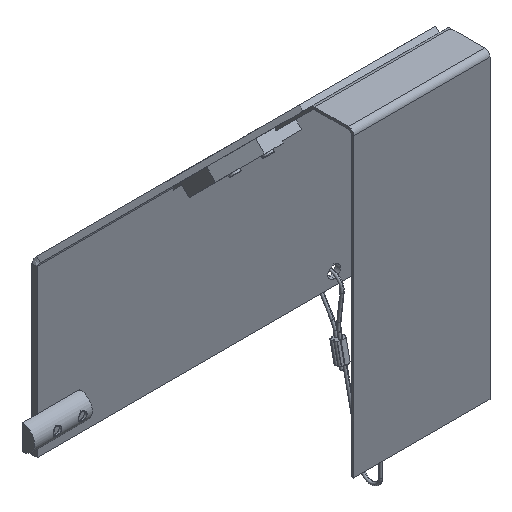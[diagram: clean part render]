
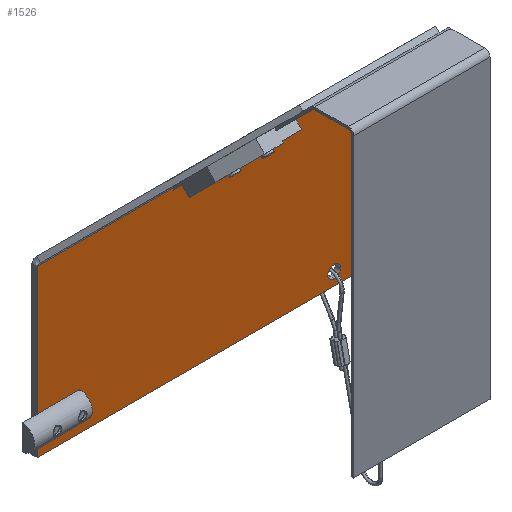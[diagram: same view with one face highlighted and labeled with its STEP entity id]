
A CAD part, isometric view. The second image highlights one B-rep face of the part: STEP entity #1526.
In plain terms, the highlighted planar face has unit normal (0, -1, 0) as drawn and (0.707, -0.707, 0) by its records, which use the part's own axes.
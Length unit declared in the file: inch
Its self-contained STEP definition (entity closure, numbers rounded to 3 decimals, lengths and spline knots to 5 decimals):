
#905=DIRECTION('',(0.,0.,-1.));
#906=VECTOR('',#905,7.91);
#907=CARTESIAN_POINT('',(0.12217,0.04243,3.955));
#908=LINE('',#907,#906);
#909=DIRECTION('',(0.,0.,-1.));
#910=VECTOR('',#909,7.91);
#911=CARTESIAN_POINT('',(2.4528,2.37305,3.955));
#912=LINE('',#911,#910);
#913=CARTESIAN_POINT('',(2.09924,2.0195,3.795));
#914=DIRECTION('',(-0.707,0.707,0.));
#915=DIRECTION('',(0.,0.,-1.));
#916=AXIS2_PLACEMENT_3D('',#913,#914,#915);
#918=CARTESIAN_POINT('',(2.09924,2.0195,3.795));
#919=DIRECTION('',(-0.707,0.707,0.));
#920=DIRECTION('',(0.,0.,1.));
#921=AXIS2_PLACEMENT_3D('',#918,#919,#920);
#923=CARTESIAN_POINT('',(2.09924,2.0195,3.295));
#924=DIRECTION('',(-0.707,0.707,0.));
#925=DIRECTION('',(0.,0.,-1.));
#926=AXIS2_PLACEMENT_3D('',#923,#924,#925);
#928=CARTESIAN_POINT('',(2.09924,2.0195,3.295));
#929=DIRECTION('',(-0.707,0.707,0.));
#930=DIRECTION('',(0.,0.,1.));
#931=AXIS2_PLACEMENT_3D('',#928,#929,#930);
#933=CARTESIAN_POINT('',(2.09924,2.0195,-3.795));
#934=DIRECTION('',(-0.707,0.707,0.));
#935=DIRECTION('',(0.,0.,-1.));
#936=AXIS2_PLACEMENT_3D('',#933,#934,#935);
#938=CARTESIAN_POINT('',(2.09924,2.0195,-3.795));
#939=DIRECTION('',(-0.707,0.707,0.));
#940=DIRECTION('',(0.,0.,1.));
#941=AXIS2_PLACEMENT_3D('',#938,#939,#940);
#943=CARTESIAN_POINT('',(2.09924,2.0195,-3.295));
#944=DIRECTION('',(-0.707,0.707,0.));
#945=DIRECTION('',(0.,0.,-1.));
#946=AXIS2_PLACEMENT_3D('',#943,#944,#945);
#948=CARTESIAN_POINT('',(2.09924,2.0195,-3.295));
#949=DIRECTION('',(-0.707,0.707,0.));
#950=DIRECTION('',(0.,0.,1.));
#951=AXIS2_PLACEMENT_3D('',#948,#949,#950);
#953=CARTESIAN_POINT('',(2.27602,2.19627,1.955));
#954=DIRECTION('',(0.707,-0.707,0.));
#955=DIRECTION('',(0.707,0.707,0.));
#956=AXIS2_PLACEMENT_3D('',#953,#954,#955);
#958=CARTESIAN_POINT('',(2.27602,2.19627,1.955));
#959=DIRECTION('',(0.707,-0.707,0.));
#960=DIRECTION('',(-0.707,-0.707,0.));
#961=AXIS2_PLACEMENT_3D('',#958,#959,#960);
#971=DIRECTION('',(-0.707,-0.707,0.));
#972=VECTOR('',#971,3.296);
#973=CARTESIAN_POINT('',(2.4528,2.37305,3.955));
#974=LINE('',#973,#972);
#1038=DIRECTION('',(-0.707,-0.707,0.));
#1039=VECTOR('',#1038,3.296);
#1040=CARTESIAN_POINT('',(2.4528,2.37305,-3.955));
#1041=LINE('',#1040,#1039);
#1110=CARTESIAN_POINT('',(2.4528,2.37305,3.955));
#1111=CARTESIAN_POINT('',(0.12217,0.04243,3.955));
#1112=VERTEX_POINT('',#1110);
#1113=VERTEX_POINT('',#1111);
#1114=CARTESIAN_POINT('',(2.4528,2.37305,-3.955));
#1115=CARTESIAN_POINT('',(0.12217,0.04243,-3.955));
#1116=VERTEX_POINT('',#1114);
#1117=VERTEX_POINT('',#1115);
#1138=CARTESIAN_POINT('',(2.09924,2.0195,-3.8885));
#1139=CARTESIAN_POINT('',(2.09924,2.0195,-3.7015));
#1140=VERTEX_POINT('',#1138);
#1141=VERTEX_POINT('',#1139);
#1146=CARTESIAN_POINT('',(2.09924,2.0195,-3.3885));
#1147=CARTESIAN_POINT('',(2.09924,2.0195,-3.2015));
#1148=VERTEX_POINT('',#1146);
#1149=VERTEX_POINT('',#1147);
#1154=CARTESIAN_POINT('',(2.09924,2.0195,3.7015));
#1155=CARTESIAN_POINT('',(2.09924,2.0195,3.8885));
#1156=VERTEX_POINT('',#1154);
#1157=VERTEX_POINT('',#1155);
#1162=CARTESIAN_POINT('',(2.09924,2.0195,3.2015));
#1163=CARTESIAN_POINT('',(2.09924,2.0195,3.3885));
#1164=VERTEX_POINT('',#1162);
#1165=VERTEX_POINT('',#1163);
#1202=CARTESIAN_POINT('',(2.36441,2.28466,1.955));
#1203=CARTESIAN_POINT('',(2.18763,2.10789,1.955));
#1204=VERTEX_POINT('',#1202);
#1205=VERTEX_POINT('',#1203);
#1482=CARTESIAN_POINT('',(2.4528,2.37305,3.955));
#1483=DIRECTION('',(-0.707,0.707,0.));
#1484=DIRECTION('',(-0.707,-0.707,0.));
#1485=AXIS2_PLACEMENT_3D('',#1482,#1483,#1484);
#1486=PLANE('',#1485);
#1487=ORIENTED_EDGE('',*,*,#1477,.F.);
#1489=ORIENTED_EDGE('',*,*,#1488,.F.);
#1491=ORIENTED_EDGE('',*,*,#1490,.T.);
#1493=ORIENTED_EDGE('',*,*,#1492,.T.);
#1494=EDGE_LOOP('',(#1487,#1489,#1491,#1493));
#1495=FACE_OUTER_BOUND('',#1494,.F.);
#1497=ORIENTED_EDGE('',*,*,#1496,.F.);
#1499=ORIENTED_EDGE('',*,*,#1498,.F.);
#1500=EDGE_LOOP('',(#1497,#1499));
#1501=FACE_BOUND('',#1500,.F.);
#1503=ORIENTED_EDGE('',*,*,#1502,.F.);
#1505=ORIENTED_EDGE('',*,*,#1504,.F.);
#1506=EDGE_LOOP('',(#1503,#1505));
#1507=FACE_BOUND('',#1506,.F.);
#1509=ORIENTED_EDGE('',*,*,#1508,.F.);
#1511=ORIENTED_EDGE('',*,*,#1510,.F.);
#1512=EDGE_LOOP('',(#1509,#1511));
#1513=FACE_BOUND('',#1512,.F.);
#1515=ORIENTED_EDGE('',*,*,#1514,.F.);
#1517=ORIENTED_EDGE('',*,*,#1516,.F.);
#1518=EDGE_LOOP('',(#1515,#1517));
#1519=FACE_BOUND('',#1518,.F.);
#1521=ORIENTED_EDGE('',*,*,#1520,.T.);
#1523=ORIENTED_EDGE('',*,*,#1522,.T.);
#1524=EDGE_LOOP('',(#1521,#1523));
#1525=FACE_BOUND('',#1524,.F.);
#917=CIRCLE('',#916,0.0935);
#922=CIRCLE('',#921,0.0935);
#927=CIRCLE('',#926,0.0935);
#932=CIRCLE('',#931,0.0935);
#937=CIRCLE('',#936,0.0935);
#942=CIRCLE('',#941,0.0935);
#947=CIRCLE('',#946,0.0935);
#952=CIRCLE('',#951,0.0935);
#957=CIRCLE('',#956,0.125);
#962=CIRCLE('',#961,0.125);
#1477=EDGE_CURVE('',#1113,#1117,#908,.T.);
#1488=EDGE_CURVE('',#1112,#1113,#974,.T.);
#1490=EDGE_CURVE('',#1112,#1116,#912,.T.);
#1492=EDGE_CURVE('',#1116,#1117,#1041,.T.);
#1496=EDGE_CURVE('',#1156,#1157,#917,.T.);
#1498=EDGE_CURVE('',#1157,#1156,#922,.T.);
#1502=EDGE_CURVE('',#1164,#1165,#927,.T.);
#1504=EDGE_CURVE('',#1165,#1164,#932,.T.);
#1508=EDGE_CURVE('',#1140,#1141,#937,.T.);
#1510=EDGE_CURVE('',#1141,#1140,#942,.T.);
#1514=EDGE_CURVE('',#1148,#1149,#947,.T.);
#1516=EDGE_CURVE('',#1149,#1148,#952,.T.);
#1520=EDGE_CURVE('',#1204,#1205,#957,.T.);
#1522=EDGE_CURVE('',#1205,#1204,#962,.T.);
#1526=ADVANCED_FACE('',(#1495,#1501,#1507,#1513,#1519,#1525),#1486,.F.);
